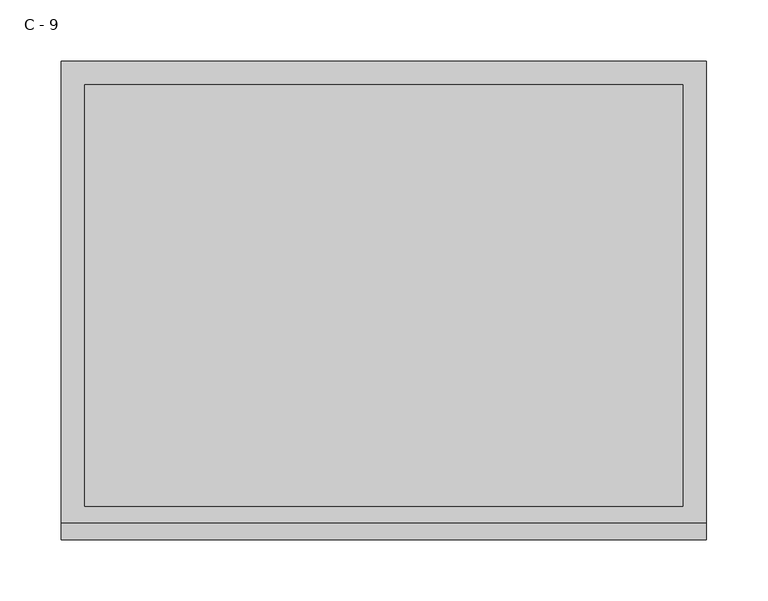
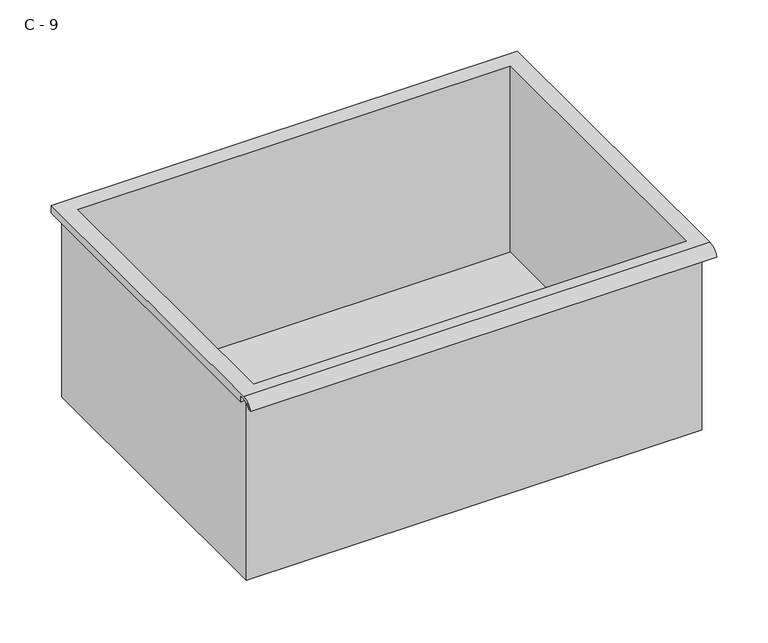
"""IFC4 building model written with IfcOpenShell, lengths in millimetres: furniture geometry, HermanMiller_CoStruc_CO207_Drawer : C - 9."""

from ifc_helpers import new_model, si_unit, frame, origin, place, context, project, spatial, polyline, circle_curve, source, transform, mapped, element, save
from ifc_brep_helpers import plane_surface, cylinder_surface, revolved_surface, advanced_brep


def c_9_c2c7ca91(model_context):
    return source(origin(), model_context, "Body", "AdvancedBrep", [
        advanced_brep(
        [(-257.1076517, -176.2125, 393.7), (257.2423483, -176.2125, 393.7), (257.2423483, -176.2125, 609.6), (263.5923483, -176.2125, 609.6), (263.5923483, -176.2125, 615.9071341), (-263.4576517, -176.2125, 615.9071341), (-263.4576517, -176.2125, 609.6), (-257.1076517, -176.2125, 609.6), (257.2423483, 185.7375, 393.7), (-257.1076517, 185.7375, 393.7), (-257.1076517, 185.7375, 609.6), (257.2423483, 185.7375, 609.6), (263.5923483, -181.6070544, 619.125), (263.5923483, 195.2625, 619.125), (-263.4576517, 195.2625, 619.125), (-263.4576517, -181.6070544, 619.125), (244.5423483, -168.275, 619.125), (-244.4076517, -168.275, 619.125), (-244.4076517, 176.2125, 619.125), (244.5423483, 176.2125, 619.125), (263.5923483, -195.2625, 609.6), (263.5923483, -191.8280601, 609.6), (263.5923483, -180.4714815, 615.9071341), (263.5923483, 195.2625, 609.6), (-263.4576517, 195.2625, 609.6), (-263.4576517, -180.4714815, 615.9071341), (-263.4576517, -191.8280601, 609.6), (-263.4576517, -195.2625, 609.6), (-244.4076517, -168.275, 396.7261719), (244.5423483, -168.275, 396.7261719), (244.5423483, 176.2125, 396.7261719), (-244.4076517, 176.2125, 396.7261719)],
        [
            (0, 1),
            (1, 2),
            (2, 3),
            (3, 4),
            (4, 5),
            (5, 6),
            (6, 7),
            (7, 0),
            (8, 9),
            (9, 10),
            (10, 11),
            (11, 8),
            (0, 9),
            (8, 1),
            (11, 2),
            (12, 13),
            (13, 14),
            (14, 15),
            (15, 12),
            (16, 17),
            (17, 18),
            (18, 19),
            (19, 16),
            (7, 10),
            (12, 20, circle_curve(frame((263.5923483, -181.6070544, 604.5739859), z_axis=(1.0, 0.0, 0.0), x_axis=(0.0, 1.0, 0.0)), 14.5510141)),
            (20, 21),
            (21, 22, circle_curve(frame((263.5923483, -181.6070544, 604.5739859), z_axis=(-1.0, 0.0, 0.0), x_axis=(0.0, 1.0, 0.0)), 11.3898979)),
            (22, 4),
            (3, 23),
            (23, 13),
            (14, 24),
            (24, 6),
            (5, 25),
            (25, 26, circle_curve(frame((-263.4576517, -181.6070544, 604.5739859), z_axis=(1.0, 0.0, 0.0), x_axis=(0.0, 1.0, 0.0)), 11.3898979)),
            (26, 27),
            (27, 15, circle_curve(frame((-263.4576517, -181.6070544, 604.5739859), z_axis=(-1.0, 0.0, 0.0), x_axis=(0.0, 1.0, 0.0)), 14.5510141)),
            (27, 20),
            (26, 21),
            (25, 22),
            (24, 23),
            (28, 29),
            (29, 30),
            (30, 31),
            (31, 28),
            (28, 17),
            (16, 29),
            (19, 30),
            (18, 31),
        ],
        [
            plane_surface(frame((257.2423483, -176.2125, 393.7), z_axis=(0.0, -1.0, 0.0), x_axis=(1.0, 0.0, 0.0))),
            plane_surface(frame((257.2423483, 185.7375, 393.7), z_axis=(0.0, 1.0, 0.0), x_axis=(-1.0, 0.0, 0.0))),
            plane_surface(frame((-257.1076517, -176.2125, 393.7), z_axis=(0.0, 0.0, -1.0), x_axis=(0.0, 1.0, 0.0))),
            plane_surface(frame((257.2423483, -176.2125, 393.7), z_axis=(1.0, 0.0, 0.0), x_axis=(0.0, 1.0, 0.0))),
            plane_surface(frame((257.2423483, -176.2125, 619.125), z_axis=(0.0, 0.0, 1.0), x_axis=(0.0, 1.0, 0.0))),
            plane_surface(frame((-257.1076517, -176.2125, 619.125), z_axis=(-1.0, 0.0, 0.0), x_axis=(0.0, 1.0, 0.0))),
            plane_surface(frame((263.5923483, 195.2625, 619.125), z_axis=(1.0, 0.0, 0.0), x_axis=(0.0, -1.0, 0.0))),
            plane_surface(frame((-263.4576517, 195.2625, 619.125), z_axis=(-1.0, 0.0, 0.0), x_axis=(0.0, 1.0, 0.0))),
            cylinder_surface(frame((-263.4576517, -181.6070544, 604.5739859), z_axis=(1.0, 0.0, 0.0), x_axis=(0.0, 1.0, 0.0)), 14.5510141),
            plane_surface(frame((263.5923483, -195.2625, 609.6), z_axis=(0.0, -7.153291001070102e-12, -1.0), x_axis=(-1.0, 0.0, 0.0))),
            revolved_surface(polyline([(-263.4576517, -170.21715650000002, 604.5739859), (263.59234829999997, -170.21715650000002, 604.5739859)]), (-263.4576517, -181.6070544, 604.5739859), (-1.0, 0.0, 0.0)),
            plane_surface(frame((263.5923483, -180.4714815, 615.9071341), z_axis=(0.0, -1.770250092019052e-11, -1.0), x_axis=(-1.0, 0.0, 0.0))),
            plane_surface(frame((263.5923483, -176.2125, 609.6), z_axis=(0.0, 0.0, -1.0), x_axis=(-1.0, 0.0, 0.0))),
            plane_surface(frame((263.5923483, 195.2625, 609.6), z_axis=(0.0, 1.0, 0.0), x_axis=(-1.0, 0.0, 0.0))),
            plane_surface(frame((244.5423483, -168.275, 396.7261719), z_axis=(0.0, 0.0, 1.0), x_axis=(-1.0, 0.0, 0.0))),
            plane_surface(frame((-244.4076517, -168.275, 619.125), z_axis=(0.0, 1.0, 0.0), x_axis=(0.0, 0.0, -1.0))),
            plane_surface(frame((244.5423483, -168.275, 619.125), z_axis=(-1.0, 0.0, 0.0), x_axis=(0.0, 0.0, -1.0))),
            plane_surface(frame((244.5423483, 176.2125, 619.125), z_axis=(0.0, -1.0, 0.0), x_axis=(0.0, 0.0, -1.0))),
            plane_surface(frame((-244.4076517, 176.2125, 619.125), z_axis=(1.0, 0.0, 0.0), x_axis=(0.0, 0.0, -1.0))),
        ],
        [
            (0, [[1, 2, 3, 4, 5, 6, 7, 8]]),
            (1, [[9, 10, 11, 12]]),
            (2, [[-1, 13, -9, 14]]),
            (3, [[-14, -12, 15, -2]]),
            (4, [[16, 17, 18, 19], [20, 21, 22, 23]]),
            (5, [[-13, -8, 24, -10]]),
            (6, [[-16, 25, 26, 27, 28, -4, 29, 30]]),
            (7, [[31, 32, -6, 33, 34, 35, 36, -18]]),
            (8, [[-25, -19, -36, 37]]),
            (9, [[-26, -37, -35, 38]]),
            (10, [[-27, -38, -34, 39]]),
            (11, [[-28, -39, -33, -5]]),
            (12, [[-29, -3, -15, -11, -24, -7, -32, 40]]),
            (13, [[-30, -40, -31, -17]]),
            (14, [[41, 42, 43, 44]]),
            (15, [[-41, 45, -20, 46]]),
            (16, [[-42, -46, -23, 47]]),
            (17, [[-43, -47, -22, 48]]),
            (18, [[-44, -48, -21, -45]]),
        ],
    ),
    ])


if __name__ == "__main__":
    model = new_model("IFC4")
    model_context = context("Model", 3, world=origin())
    ifc_project = project(units=[si_unit("LENGTHUNIT", "METRE", prefix="MILLI")], contexts=[model_context])
    site = spatial("IfcSite", under=ifc_project)
    building = spatial("IfcBuilding", under=site)
    placement = place(None, origin())
    c_9_shape = c_9_c2c7ca91(model_context)
    element("IfcFurniture", 1, ObjectType="HermanMiller_CoStruc_CO207_Drawer : C - 9", at=placement, inside=building, context=model_context, shape_type="MappedRepresentation", body=[
        mapped(c_9_shape, transform((0.0, 0.0, 0.0), x_axis=(1.0, 0.0, 0.0), y_axis=(0.0, 1.0, 0.0), z_axis=(0.0, 0.0, 1.0))),
    ])
    save(model, "model.ifc")
